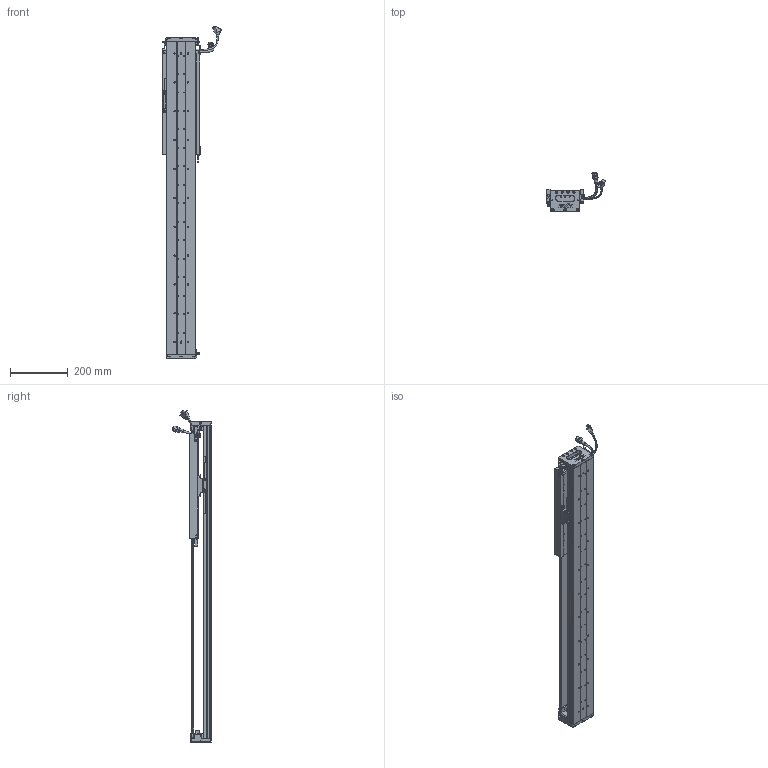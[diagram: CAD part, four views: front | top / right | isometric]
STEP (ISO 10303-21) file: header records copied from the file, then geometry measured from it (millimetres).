
FILE_DESCRIPTION (( 'STEP AP203' ), '1' );
FILE_NAME ('Z5-RY100D-1-L500-B-K.SLDASM_0650.step', '2021-05-17T03:32:35', ( '盈信电脑' ), ( '东莞市道滘镇水果街19号' ), 'SwSTEP 2.0', 'SolidWorks 2016', '' );
FILE_SCHEMA (( 'CONFIG_CONTROL_DESIGN' ));
Length unit declared in the file: millimetre
Products named in the file (36): HARNESS-Part-1; Z-100詩湍傷裔啣; 140雄赽晤鎢ん堤盄; SEAL; SCREW-M1.7-1; 080黍杅芛假蚾釱21遴; SCALE-Part-1; SCREW-M1.6-1; COVER; Z5-RY100D-1-L500-B-K.SLDASM_0650; Z5-RY100铝滑块（21款）; SCREW-M1.6-2; Z5-RY100D-500-倰第菁釱_0650; SHIELDPLATE; Z5-RY100-L500詩湍90mm遵_0650; Z-RY100D詩湍狟揤裔; HARNESS; Z-RY100D詩湍奻揤裔; HARNESS-Part-2; HOLDER0; 榋妏寠巭燃_暯_M2_2; LABEL; COVER-Part-1; SCREW-M1.6; SCREW-M1.7; LABEL-Part-1; SCALE-Part-2; PSLH080_PSLF2; SEAL-Part-1; SCREW-M1.6-3; SCALE; 覜茼ん672; Z-RY100D覜茼んえ; 140蚥薯蝶輸; PBU_SHEET; 100-Z-臏賑輸盄裔(21遴)
Assembly tree (43 placements, depth 4):
  Z5-RY100D-1-L500-B-K.SLDASM_0650
    Z5-RY100D-500-倰第菁釱_0650
    Z5-RY100铝滑块（21款）
    PSLH080_PSLF2
      SCALE
        SCALE-Part-1
        SCALE-Part-2
      HARNESS
        HARNESS-Part-1
        HARNESS-Part-2
      LABEL
        LABEL-Part-1
      COVER
        COVER-Part-1
      SEAL
        SEAL-Part-1
      榋妏寠巭燃_暯_M2_2
      SHIELDPLATE
      SCREW-M1.7
      SCREW-M1.7-1
      PBU_SHEET
      SCREW-M1.6
      SCREW-M1.6-1
      SCREW-M1.6-2
      SCREW-M1.6-3
      HOLDER0
    080黍杅芛假蚾釱21遴
    Z-100詩湍傷裔啣  x2
    140蚥薯蝶輸  x2
    覜茼ん672  x3
    Z-RY100D覜茼んえ  x3
    100-Z-臏賑輸盄裔(21遴)
    140雄赽晤鎢ん堤盄
    Z5-RY100-L500詩湍90mm遵_0650
    Z-RY100D詩湍狟揤裔  x2
    Z-RY100D詩湍奻揤裔  x2
Bounding box: 205.84 x 136.11 x 1150.43 mm (x, y, z)
Volume: 2668632.8 mm3; surface area: 985620.9 mm2
Topology: 38 solids, 38 shells, 2603 faces, 6829 edges, 4320 vertices
Faces by surface type: cylinder 1130, plane 1125, cone 226, torus 69, bspline 53
Entity records: 70779 total; most frequent: CARTESIAN_POINT 14903, DIRECTION 11219, ORIENTED_EDGE 10538, EDGE_CURVE 5269, AXIS2_PLACEMENT_3D 4128, VERTEX_POINT 3388, LINE 2963, VECTOR 2963
